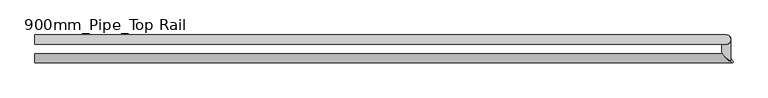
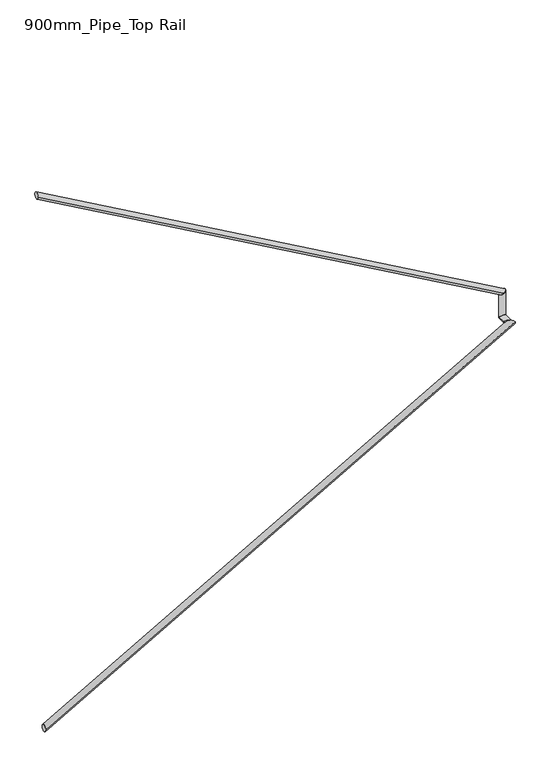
"""IFC4 building model written with IfcOpenShell, lengths in millimetres: railing geometry, 900mm_Pipe_Top Rail."""

from ifc_helpers import new_model, si_unit, frame, origin, place, context, project, spatial, ellipse_curve, source, transform, mapped, element, save
from ifc_brep_helpers import plane_surface, cylinder_surface, advanced_brep


def railing_900mm_pipe_top_rail_784b6d44(model_context):
    return source(origin(), model_context, "Body", "AdvancedBrep", [
        advanced_brep(
        [(-801.4958562, -3374.7473686, 8557.451671), (-801.4958562, -3334.7473686, 8557.451671), (2225.7734631, -3374.7473686, 10277.491057), (2190.9952008, -3334.7473686, 10257.7306807)],
        [
            (0, 1, ellipse_curve(frame((-801.4958562, -3354.7473686, 8557.451671), z_axis=(-1.0, 0.0, 0.0), x_axis=(0.0, 0.0, -1.0)), 23.0028744, 20.0)),
            (1, 0, ellipse_curve(frame((-801.4958562, -3354.7473686, 8557.451671), z_axis=(-1.0, 0.0, 0.0), x_axis=(0.0, 0.0, -1.0)), 23.0028744, 20.0)),
            (2, 3, ellipse_curve(frame((2208.3843319, -3354.7473686, 10267.6108689), z_axis=(0.6147986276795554, 0.707106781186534, 0.34931740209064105), x_axis=(-0.614798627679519, 0.707106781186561, -0.3493174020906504)), 28.2842712, 20.0)),
            (3, 2, ellipse_curve(frame((2208.3843319, -3354.7473686, 10267.6108689), z_axis=(0.6147986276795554, 0.707106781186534, 0.34931740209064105), x_axis=(-0.614798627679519, 0.707106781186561, -0.3493174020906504)), 28.2842712, 20.0)),
            (0, 2),
            (3, 1),
        ],
        [
            plane_surface(frame((-801.4958562, -3354.7473686, 8580.4545455), z_axis=(-1.0, 0.0, 0.0), x_axis=(0.0, 1.0, 0.0))),
            plane_surface(frame((2198.5041438, -3354.7473686, 10285.0), z_axis=(0.6147986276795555, 0.7071067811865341, 0.3493174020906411), x_axis=(0.7886841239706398, -0.5512070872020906, -0.27230148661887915))),
            cylinder_surface(frame((-791.6156681, -3354.7473686, 8563.0654143), z_axis=(-0.8694565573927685, 0.0, -0.49400940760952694), x_axis=(0.0, 1.0, 0.0)), 20.0),
        ],
        [
            (0, [[1, 2]]),
            (1, [[3, 4]]),
            (2, [[-1, 5, -4, 6]]),
            (2, [[-2, -6, -3, -5]]),
        ],
    ),
        advanced_brep(
        [(2218.9041438, -3362.2563116, 10265.0), (2178.9041438, -3327.4780493, 10265.0), (2218.9041438, -3274.4316761, 10265.0), (2178.9041438, -3274.4316761, 10265.0)],
        [
            (0, 1, ellipse_curve(frame((2198.9041438, -3344.8671804, 10265.0), z_axis=(-0.6147986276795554, -0.707106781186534, -0.34931740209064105), x_axis=(0.6147986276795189, -0.7071067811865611, 0.34931740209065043)), 28.2842712, 20.0)),
            (1, 0, ellipse_curve(frame((2198.9041438, -3344.8671804, 10265.0), z_axis=(-0.6147986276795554, -0.707106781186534, -0.34931740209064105), x_axis=(0.6147986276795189, -0.7071067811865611, 0.34931740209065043)), 28.2842712, 20.0)),
            (2, 3, ellipse_curve(frame((2198.9041438, -3274.4316761, 10265.0), z_axis=(0.0, 0.7071067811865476, 0.7071067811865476), x_axis=(0.0, -0.7071067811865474, 0.7071067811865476)), 28.2842712, 20.0)),
            (3, 2, ellipse_curve(frame((2198.9041438, -3274.4316761, 10265.0), z_axis=(0.0, 0.7071067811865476, 0.7071067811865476), x_axis=(0.0, -0.7071067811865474, 0.7071067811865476)), 28.2842712, 20.0)),
            (0, 2),
            (3, 1),
        ],
        [
            plane_surface(frame((2198.9041438, -3354.7473686, 10285.0), z_axis=(-0.6147986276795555, -0.7071067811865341, -0.3493174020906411), x_axis=(0.7886841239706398, -0.5512070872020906, -0.27230148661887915))),
            plane_surface(frame((2198.9041438, -3294.4316761, 10285.0), z_axis=(0.0, 0.7071067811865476, 0.7071067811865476), x_axis=(1.0, 0.0, 0.0))),
            cylinder_surface(frame((2198.9041438, -3354.7473686, 10265.0), z_axis=(0.0, -1.0, 0.0), x_axis=(-1.0, 0.0, 0.0)), 20.0),
        ],
        [
            (0, [[1, 2]]),
            (1, [[3, 4]]),
            (2, [[-1, 5, -4, 6]]),
            (2, [[-2, -6, -3, -5]]),
        ],
    ),
        advanced_brep(
        [(2218.9041438, -3274.4316761, 10265.0), (2178.9041438, -3274.4316761, 10265.0), (2218.9041438, -3274.4316761, 10443.8636364), (2178.9041438, -3274.4316761, 10420.5851603)],
        [
            (0, 1, ellipse_curve(frame((2198.9041438, -3274.4316761, 10265.0), z_axis=(0.0, -0.7071067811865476, -0.7071067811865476), x_axis=(0.0, 0.7071067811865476, -0.7071067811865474)), 28.2842712, 20.0)),
            (1, 0, ellipse_curve(frame((2198.9041438, -3274.4316761, 10265.0), z_axis=(0.0, -0.7071067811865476, -0.7071067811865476), x_axis=(0.0, 0.7071067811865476, -0.7071067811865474)), 28.2842712, 20.0)),
            (2, 3, ellipse_curve(frame((2198.9041438, -3274.4316761, 10432.2243983), z_axis=(-0.5029863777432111, 0.0, 0.8642943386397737), x_axis=(-0.8642943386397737, 0.0, -0.502986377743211)), 23.140265, 20.0)),
            (3, 2, ellipse_curve(frame((2198.9041438, -3274.4316761, 10432.2243983), z_axis=(-0.5029863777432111, 0.0, 0.8642943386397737), x_axis=(-0.8642943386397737, 0.0, -0.502986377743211)), 23.140265, 20.0)),
            (0, 2),
            (3, 1),
        ],
        [
            plane_surface(frame((2198.9041438, -3274.4316761, 10265.0), z_axis=(0.0, -0.7071067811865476, -0.7071067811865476), x_axis=(1.0, 0.0, 0.0))),
            plane_surface(frame((2198.9041438, -3274.4316761, 10432.2243983), z_axis=(-0.5029863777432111, 0.0, 0.8642943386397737), x_axis=(0.8642943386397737, 0.0, 0.5029863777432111))),
            cylinder_surface(frame((2198.9041438, -3274.4316761, 10265.0), z_axis=(0.0, 0.0, -1.0), x_axis=(-1.0, 0.0, 0.0)), 20.0),
        ],
        [
            (0, [[1, 2]]),
            (1, [[3, 4]]),
            (2, [[-1, 5, -4, 6]]),
            (2, [[-2, -6, -3, -5]]),
        ],
    ),
        advanced_brep(
        [(2198.9041438, -3254.4316761, 10432.2243983), (2198.9041438, -3294.4316761, 10432.2243983), (-801.4958562, -3254.4316761, 12136.9971256), (-801.4958562, -3294.4316761, 12136.9971256)],
        [
            (0, 1, ellipse_curve(frame((2198.9041438, -3274.4316761, 10432.2243983), z_axis=(0.5029863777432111, 0.0, -0.8642943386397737), x_axis=(0.8642943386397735, 0.0, 0.5029863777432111)), 23.140265, 20.0)),
            (1, 0, ellipse_curve(frame((2198.9041438, -3274.4316761, 10432.2243983), z_axis=(0.5029863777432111, 0.0, -0.8642943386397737), x_axis=(0.8642943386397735, 0.0, 0.5029863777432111)), 23.140265, 20.0)),
            (2, 3, ellipse_curve(frame((-801.4958562, -3274.4316761, 12136.9971256), z_axis=(-1.0, 0.0, 0.0), x_axis=(0.0, 0.0, -1.0)), 23.0028744, 20.0)),
            (3, 2, ellipse_curve(frame((-801.4958562, -3274.4316761, 12136.9971256), z_axis=(-1.0, 0.0, 0.0), x_axis=(0.0, 0.0, -1.0)), 23.0028744, 20.0)),
            (0, 2),
            (3, 1),
        ],
        [
            plane_surface(frame((2218.9041438, -3274.4316761, 10443.8636364), z_axis=(0.5029863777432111, 0.0, -0.8642943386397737), x_axis=(0.8642943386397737, 0.0, 0.5029863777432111))),
            plane_surface(frame((-801.4958562, -3274.4316761, 12160.0), z_axis=(-1.0, 0.0, 0.0), x_axis=(0.0, -1.0, 0.0))),
            cylinder_surface(frame((2209.0239556, -3274.4316761, 10426.4745052), z_axis=(0.8694565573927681, 0.0, -0.4940094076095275), x_axis=(0.0, -1.0, 0.0)), 20.0),
        ],
        [
            (0, [[1, 2]]),
            (1, [[3, 4]]),
            (2, [[-1, 5, -4, 6]]),
            (2, [[-2, -6, -3, -5]]),
        ],
    ),
    ])


if __name__ == "__main__":
    model = new_model("IFC4")
    model_context = context("Model", 3, world=origin())
    ifc_project = project(units=[si_unit("LENGTHUNIT", "METRE", prefix="MILLI")], contexts=[model_context])
    site = spatial("IfcSite", under=ifc_project)
    building = spatial("IfcBuilding", under=site)
    placement = place(None, origin())
    railing_900mm_pipe_top_rail_shape = railing_900mm_pipe_top_rail_784b6d44(model_context)
    element("IfcRailing", 1, ObjectType="900mm_Pipe_Top Rail", at=placement, inside=building, context=model_context, shape_type="MappedRepresentation", body=[
        mapped(railing_900mm_pipe_top_rail_shape, transform((0.0, 0.0, 0.0), x_axis=(1.0, 0.0, 0.0), y_axis=(0.0, 1.0, 0.0), z_axis=(0.0, 0.0, 1.0))),
    ])
    save(model, "model.ifc")
